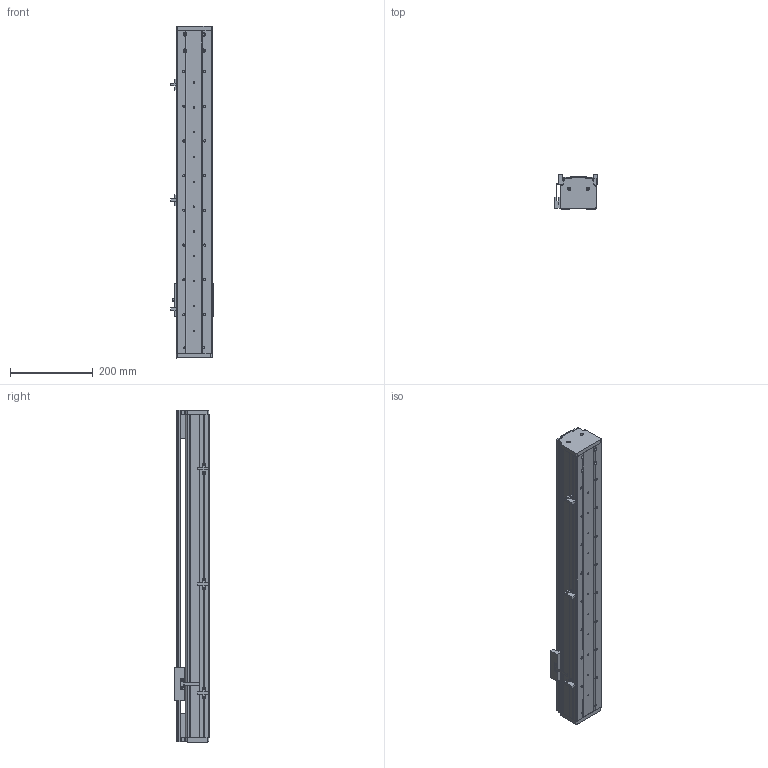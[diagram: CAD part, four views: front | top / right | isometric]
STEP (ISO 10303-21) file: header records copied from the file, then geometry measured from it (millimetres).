
FILE_DESCRIPTION (( 'STEP AP214' ), '1' );
FILE_NAME ('CF86-D-550-FWR.STEP', '2020-01-15T07:20:17', ( '微软用户' ), ( '微软中国' ), 'SwSTEP 2.0', 'SolidWorks 2016', '' );
FILE_SCHEMA (( 'AUTOMOTIVE_DESIGN' ));
Length unit declared in the file: millimetre
Products named in the file (12): CF86-D-550-FWR; 嫖萇羲壽; 75-86-95癹弇羲壽覜茼え; 86耜啣 - 萵掛; 86耜啣; 植雄耜; CF86郔陔翋雄釱; CF86賑輸; EGW15CA賑輸; EGR15-550; 86臏倰第-550; 86裔啣-550
Assembly tree (13 placements, depth 2):
  CF86-D-550-FWR
    86裔啣-550
    86臏倰第-550
    EGR15-550
    EGW15CA賑輸
    CF86賑輸
    CF86郔陔翋雄釱
    植雄耜
    86耜啣
    86耜啣 - 萵掛
    75-86-95癹弇羲壽覜茼え
    嫖萇羲壽  x3
Bounding box: 103.6 x 83.35 x 803 mm (x, y, z)
Volume: 2238854.1 mm3; surface area: 715037.4 mm2
Topology: 13 solids, 13 shells, 680 faces, 1878 edges, 1241 vertices
Faces by surface type: plane 363, cylinder 307, cone 10
Entity records: 21896 total; most frequent: CARTESIAN_POINT 3793, DIRECTION 3574, ORIENTED_EDGE 3448, EDGE_CURVE 1724, AXIS2_PLACEMENT_3D 1262, VERTEX_POINT 1145, LINE 1050, VECTOR 1050
